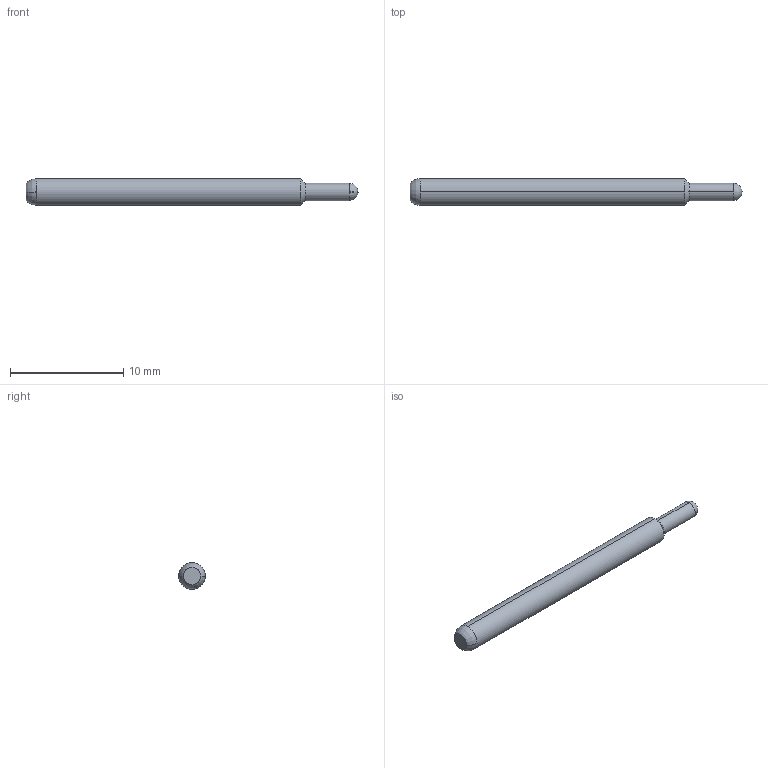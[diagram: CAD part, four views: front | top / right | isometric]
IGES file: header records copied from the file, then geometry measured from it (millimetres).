
Start section: SolidWorks IGES file using analytic representation for surfaces
Global section: file name: Z:\probe solid model mockups\Solidworks models\IGES Files\EPA-4 IGES files\EPA-4J RECD.IGS; native system: SolidWorks 2006 by SolidWorks Corporation; preprocessor: SolidWorks 2006 by SolidWorks Corporation; author: tsakatani; date: 080103.104557; units: inch
Bounding box: 29.29 x 2.36 x 2.36 mm (x, y, z)
Surface area: 207.4 mm2 (no closed solid volume)
Topology: 0 solids, 0 shells, 11 faces, 64 edges, 62 vertices
Faces by surface type: revolution 10, bspline 1
